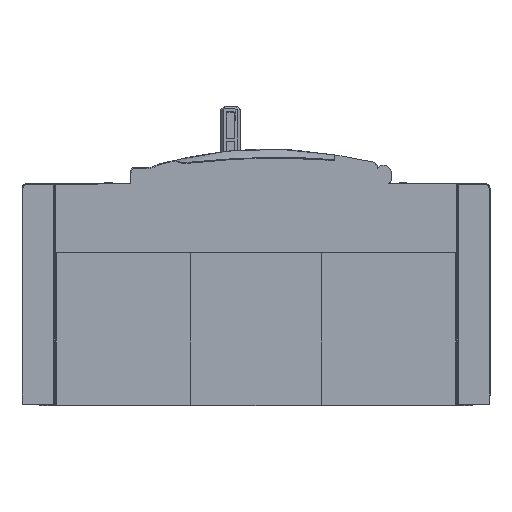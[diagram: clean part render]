
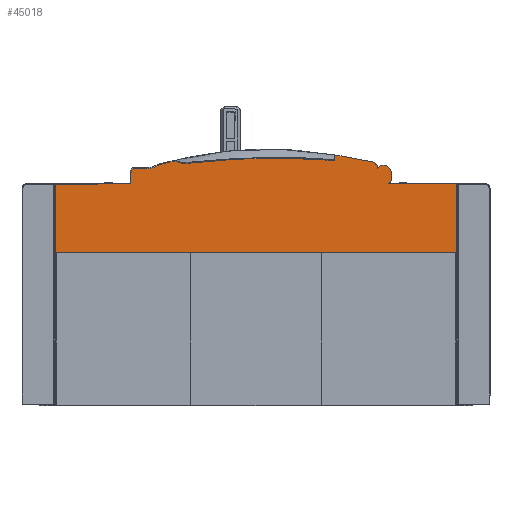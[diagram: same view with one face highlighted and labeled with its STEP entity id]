
A CAD part, top view. The second image highlights one B-rep face of the part: STEP entity #45018.
In plain terms, the highlighted planar face has unit normal (0, 0, 1) as drawn and (1, 0, 0) by its records, which use the part's own axes.
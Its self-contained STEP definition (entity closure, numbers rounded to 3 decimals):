
#715=DIRECTION('',(0.,1.,0.));
#716=VECTOR('',#715,153.9);
#717=CARTESIAN_POINT('',(71.,-76.95,-26.5));
#718=LINE('',#717,#716);
#6317=DIRECTION('',(0.,0.,1.));
#6318=VECTOR('',#6317,26.5);
#6319=CARTESIAN_POINT('',(71.,76.95,-26.5));
#6320=LINE('',#6319,#6318);
#6331=CARTESIAN_POINT('',(71.,7.536,-279.702));
#6332=DIRECTION('',(-1.,0.,0.));
#6333=DIRECTION('',(0.,-0.116,0.993));
#6334=AXIS2_PLACEMENT_3D('',#6331,#6332,#6333);
#6339=DIRECTION('',(0.,0.983,-0.185));
#6340=VECTOR('',#6339,15.543);
#6341=CARTESIAN_POINT('',(71.,30.2,10.919));
#6342=LINE('',#6341,#6340);
#6346=DIRECTION('',(0.,0.422,-0.907));
#6347=VECTOR('',#6346,1.054);
#6348=CARTESIAN_POINT('',(71.,45.476,8.047));
#6349=LINE('',#6348,#6347);
#6353=CARTESIAN_POINT('',(71.,7.536,-279.702));
#6354=DIRECTION('',(-1.,0.,0.));
#6355=DIRECTION('',(0.,0.133,0.991));
#6356=AXIS2_PLACEMENT_3D('',#6353,#6354,#6355);
#6361=DIRECTION('',(0.,0.,-1.));
#6362=VECTOR('',#6361,1.22);
#6363=CARTESIAN_POINT('',(71.,46.525,7.009));
#6364=LINE('',#6363,#6362);
#6368=CARTESIAN_POINT('',(71.,48.9,4.04));
#6369=DIRECTION('',(-1.,0.,0.));
#6370=DIRECTION('',(0.,-0.805,0.593));
#6371=AXIS2_PLACEMENT_3D('',#6368,#6369,#6370);
#6376=CARTESIAN_POINT('',(71.,49.85,1.74));
#6377=DIRECTION('',(-1.,0.,0.));
#6378=DIRECTION('',(0.,1.,0.001));
#6379=AXIS2_PLACEMENT_3D('',#6376,#6377,#6378);
#6384=DIRECTION('',(0.,1.,0.));
#6385=VECTOR('',#6384,26.114);
#6386=CARTESIAN_POINT('',(71.,50.836,0.));
#6387=LINE('',#6386,#6385);
#6391=DIRECTION('',(0.,1.,0.));
#6392=VECTOR('',#6391,12.65);
#6393=CARTESIAN_POINT('',(71.,-60.75,0.));
#6394=LINE('',#6393,#6392);
#6398=CARTESIAN_POINT('',(71.,7.536,-279.702));
#6399=DIRECTION('',(-1.,0.,0.));
#6400=DIRECTION('',(0.,-0.192,0.981));
#6401=AXIS2_PLACEMENT_3D('',#6398,#6399,#6400);
#6406=DIRECTION('',(0.,0.707,0.707));
#6407=VECTOR('',#6406,1.166);
#6408=CARTESIAN_POINT('',(71.,-47.8,4.876));
#6409=LINE('',#6408,#6407);
#6413=CARTESIAN_POINT('',(71.,-41.97,14.));
#6414=DIRECTION('',(1.,0.,0.));
#6415=DIRECTION('',(0.,0.,-1.));
#6416=AXIS2_PLACEMENT_3D('',#6413,#6414,#6415);
#6421=CARTESIAN_POINT('',(71.,-41.97,14.));
#6422=DIRECTION('',(1.,0.,0.));
#6423=DIRECTION('',(0.,0.273,-0.962));
#6424=AXIS2_PLACEMENT_3D('',#6421,#6422,#6423);
#6429=CARTESIAN_POINT('',(71.,-37.637,6.921));
#6430=CARTESIAN_POINT('',(71.,-36.9,7.114));
#6431=CARTESIAN_POINT('',(71.,-35.425,7.493));
#6432=CARTESIAN_POINT('',(71.,-33.207,8.042));
#6433=CARTESIAN_POINT('',(71.,-31.725,8.395));
#6434=CARTESIAN_POINT('',(71.,-30.983,8.567));
#6439=CARTESIAN_POINT('',(71.,-27.007,16.641));
#6440=DIRECTION('',(1.,0.,0.));
#6441=DIRECTION('',(0.,-0.442,-0.897));
#6442=AXIS2_PLACEMENT_3D('',#6439,#6440,#6441);
#6447=CARTESIAN_POINT('',(71.,-27.007,16.641));
#6448=DIRECTION('',(1.,0.,0.));
#6449=DIRECTION('',(0.,-0.175,-0.985));
#6450=AXIS2_PLACEMENT_3D('',#6447,#6448,#6449);
#6723=DIRECTION('',(0.,-1.,0.));
#6724=VECTOR('',#6723,5.006);
#6725=CARTESIAN_POINT('',(71.,-41.97,5.7));
#6726=LINE('',#6725,#6724);
#6978=DIRECTION('',(0.,0.,-1.));
#6979=VECTOR('',#6978,2.156);
#6980=CARTESIAN_POINT('',(71.,30.2,10.919));
#6981=LINE('',#6980,#6979);
#7133=CARTESIAN_POINT('',(71.,7.536,-279.702));
#7134=DIRECTION('',(1.,0.,0.));
#7135=DIRECTION('',(0.,0.078,0.997));
#7136=AXIS2_PLACEMENT_3D('',#7133,#7134,#7135);
#9235=DIRECTION('',(0.,0.,1.));
#9236=VECTOR('',#9235,2.3);
#9237=CARTESIAN_POINT('',(71.,51.85,1.74));
#9238=LINE('',#9237,#9236);
#9294=DIRECTION('',(0.,0.,-1.));
#9295=VECTOR('',#9294,0.568);
#9296=CARTESIAN_POINT('',(71.,-47.8,4.876));
#9297=LINE('',#9296,#9295);
#9325=DIRECTION('',(0.,0.,-1.));
#9326=VECTOR('',#9325,4.249);
#9327=CARTESIAN_POINT('',(71.,-48.1,4.249));
#9328=LINE('',#9327,#9326);
#10477=DIRECTION('',(0.,0.,-1.));
#10478=VECTOR('',#10477,0.3);
#10479=CARTESIAN_POINT('',(71.,-60.75,0.));
#10480=LINE('',#10479,#10478);
#10484=DIRECTION('',(0.,-1.,0.));
#10485=VECTOR('',#10484,16.2);
#10486=CARTESIAN_POINT('',(71.,-60.75,-0.3));
#10487=LINE('',#10486,#10485);
#10537=DIRECTION('',(0.,0.,-1.));
#10538=VECTOR('',#10537,26.2);
#10539=CARTESIAN_POINT('',(71.,-76.95,-0.3));
#10540=LINE('',#10539,#10538);
#35123=CARTESIAN_POINT('',(71.,-76.95,-26.5));
#35124=VERTEX_POINT('',#35123);
#35125=CARTESIAN_POINT('',(71.,76.95,-26.5));
#35126=VERTEX_POINT('',#35125);
#35244=CARTESIAN_POINT('',(71.,76.95,0.));
#35245=VERTEX_POINT('',#35244);
#35246=CARTESIAN_POINT('',(71.,50.836,0.));
#35247=VERTEX_POINT('',#35246);
#35508=CARTESIAN_POINT('',(71.,-48.1,0.));
#35510=VERTEX_POINT('',#35508);
#35511=CARTESIAN_POINT('',(71.,-60.75,0.));
#35512=VERTEX_POINT('',#35511);
#35829=CARTESIAN_POINT('',(71.,-25.965,7.702));
#35830=CARTESIAN_POINT('',(71.,29.9,8.782));
#35831=VERTEX_POINT('',#35829);
#35832=VERTEX_POINT('',#35830);
#35833=CARTESIAN_POINT('',(71.,30.199,8.759));
#35834=VERTEX_POINT('',#35833);
#35835=CARTESIAN_POINT('',(71.,30.2,10.919));
#35836=VERTEX_POINT('',#35835);
#35837=CARTESIAN_POINT('',(71.,45.476,8.047));
#35838=VERTEX_POINT('',#35837);
#35839=CARTESIAN_POINT('',(71.,45.92,7.091));
#35840=VERTEX_POINT('',#35839);
#35841=CARTESIAN_POINT('',(71.,46.525,7.009));
#35842=VERTEX_POINT('',#35841);
#35843=CARTESIAN_POINT('',(71.,46.525,5.79));
#35844=VERTEX_POINT('',#35843);
#35845=CARTESIAN_POINT('',(71.,51.85,4.041));
#35846=VERTEX_POINT('',#35845);
#35847=CARTESIAN_POINT('',(71.,51.85,1.74));
#35848=VERTEX_POINT('',#35847);
#35849=CARTESIAN_POINT('',(71.,-76.95,-0.3));
#35850=VERTEX_POINT('',#35849);
#35851=CARTESIAN_POINT('',(71.,-60.75,-0.3));
#35852=VERTEX_POINT('',#35851);
#35853=CARTESIAN_POINT('',(71.,-48.1,4.249));
#35854=VERTEX_POINT('',#35853);
#35855=CARTESIAN_POINT('',(71.,-47.8,4.307));
#35856=VERTEX_POINT('',#35855);
#35857=CARTESIAN_POINT('',(71.,-47.8,4.876));
#35858=VERTEX_POINT('',#35857);
#35859=CARTESIAN_POINT('',(71.,-46.976,5.7));
#35860=VERTEX_POINT('',#35859);
#35861=CARTESIAN_POINT('',(71.,-41.97,5.7));
#35862=VERTEX_POINT('',#35861);
#35863=CARTESIAN_POINT('',(71.,-39.704,6.015));
#35864=VERTEX_POINT('',#35863);
#35865=CARTESIAN_POINT('',(71.,-37.637,6.921));
#35866=VERTEX_POINT('',#35865);
#35867=VERTEX_POINT('',#6434);
#35868=CARTESIAN_POINT('',(71.,-28.583,7.78));
#35869=VERTEX_POINT('',#35868);
#44960=CARTESIAN_POINT('',(71.,-82.6,-26.5));
#44961=DIRECTION('',(1.,0.,0.));
#44962=DIRECTION('',(0.,-1.,0.));
#44963=AXIS2_PLACEMENT_3D('',#44960,#44961,#44962);
#44964=PLANE('',#44963);
#44966=ORIENTED_EDGE('',*,*,#44965,.T.);
#44968=ORIENTED_EDGE('',*,*,#44967,.F.);
#44970=ORIENTED_EDGE('',*,*,#44969,.F.);
#44972=ORIENTED_EDGE('',*,*,#44971,.T.);
#44974=ORIENTED_EDGE('',*,*,#44973,.T.);
#44976=ORIENTED_EDGE('',*,*,#44975,.T.);
#44978=ORIENTED_EDGE('',*,*,#44977,.T.);
#44980=ORIENTED_EDGE('',*,*,#44979,.T.);
#44982=ORIENTED_EDGE('',*,*,#44981,.F.);
#44984=ORIENTED_EDGE('',*,*,#44983,.T.);
#44985=ORIENTED_EDGE('',*,*,#44417,.T.);
#44986=ORIENTED_EDGE('',*,*,#44940,.F.);
#44987=ORIENTED_EDGE('',*,*,#41021,.F.);
#44989=ORIENTED_EDGE('',*,*,#44988,.F.);
#44991=ORIENTED_EDGE('',*,*,#44990,.F.);
#44993=ORIENTED_EDGE('',*,*,#44992,.F.);
#44995=ORIENTED_EDGE('',*,*,#44994,.T.);
#44997=ORIENTED_EDGE('',*,*,#44996,.F.);
#44999=ORIENTED_EDGE('',*,*,#44998,.T.);
#45001=ORIENTED_EDGE('',*,*,#45000,.F.);
#45003=ORIENTED_EDGE('',*,*,#45002,.T.);
#45005=ORIENTED_EDGE('',*,*,#45004,.F.);
#45007=ORIENTED_EDGE('',*,*,#45006,.T.);
#45009=ORIENTED_EDGE('',*,*,#45008,.T.);
#45011=ORIENTED_EDGE('',*,*,#45010,.T.);
#45013=ORIENTED_EDGE('',*,*,#45012,.T.);
#45015=ORIENTED_EDGE('',*,*,#45014,.T.);
#45016=EDGE_LOOP('',(#44966,#44968,#44970,#44972,#44974,#44976,#44978,#44980,
#44982,#44984,#44985,#44986,#44987,#44989,#44991,#44993,#44995,#44997,#44999,
#45001,#45003,#45005,#45007,#45009,#45011,#45013,#45015));
#45017=FACE_OUTER_BOUND('',#45016,.F.);
#45018=ADVANCED_FACE('',(#45017),#44964,.T.);
#6335=CIRCLE('',#6334,289.35);
#6357=CIRCLE('',#6356,289.35);
#6372=CIRCLE('',#6371,2.95);
#6380=CIRCLE('',#6379,2.);
#6402=CIRCLE('',#6401,289.35);
#6417=CIRCLE('',#6416,8.3);
#6425=CIRCLE('',#6424,8.3);
#6435=B_SPLINE_CURVE_WITH_KNOTS('',3,(#6429,#6430,#6431,#6432,#6433,#6434),
.UNSPECIFIED.,.F.,.F.,(4,1,1,4),(0.,0.333,0.667,1.),
.UNSPECIFIED.);
#6443=CIRCLE('',#6442,9.);
#6451=CIRCLE('',#6450,9.);
#7137=CIRCLE('',#7136,289.35);
#41021=EDGE_CURVE('',#35124,#35126,#718,.T.);
#44417=EDGE_CURVE('',#35247,#35245,#6387,.T.);
#44940=EDGE_CURVE('',#35126,#35245,#6320,.T.);
#44965=EDGE_CURVE('',#35831,#35832,#6335,.T.);
#44967=EDGE_CURVE('',#35834,#35832,#7137,.T.);
#44969=EDGE_CURVE('',#35836,#35834,#6981,.T.);
#44971=EDGE_CURVE('',#35836,#35838,#6342,.T.);
#44973=EDGE_CURVE('',#35838,#35840,#6349,.T.);
#44975=EDGE_CURVE('',#35840,#35842,#6357,.T.);
#44977=EDGE_CURVE('',#35842,#35844,#6364,.T.);
#44979=EDGE_CURVE('',#35844,#35846,#6372,.T.);
#44981=EDGE_CURVE('',#35848,#35846,#9238,.T.);
#44983=EDGE_CURVE('',#35848,#35247,#6380,.T.);
#44988=EDGE_CURVE('',#35850,#35124,#10540,.T.);
#44990=EDGE_CURVE('',#35852,#35850,#10487,.T.);
#44992=EDGE_CURVE('',#35512,#35852,#10480,.T.);
#44994=EDGE_CURVE('',#35512,#35510,#6394,.T.);
#44996=EDGE_CURVE('',#35854,#35510,#9328,.T.);
#44998=EDGE_CURVE('',#35854,#35856,#6402,.T.);
#45000=EDGE_CURVE('',#35858,#35856,#9297,.T.);
#45002=EDGE_CURVE('',#35858,#35860,#6409,.T.);
#45004=EDGE_CURVE('',#35862,#35860,#6726,.T.);
#45006=EDGE_CURVE('',#35862,#35864,#6417,.T.);
#45008=EDGE_CURVE('',#35864,#35866,#6425,.T.);
#45010=EDGE_CURVE('',#35866,#35867,#6435,.T.);
#45012=EDGE_CURVE('',#35867,#35869,#6443,.T.);
#45014=EDGE_CURVE('',#35869,#35831,#6451,.T.);
